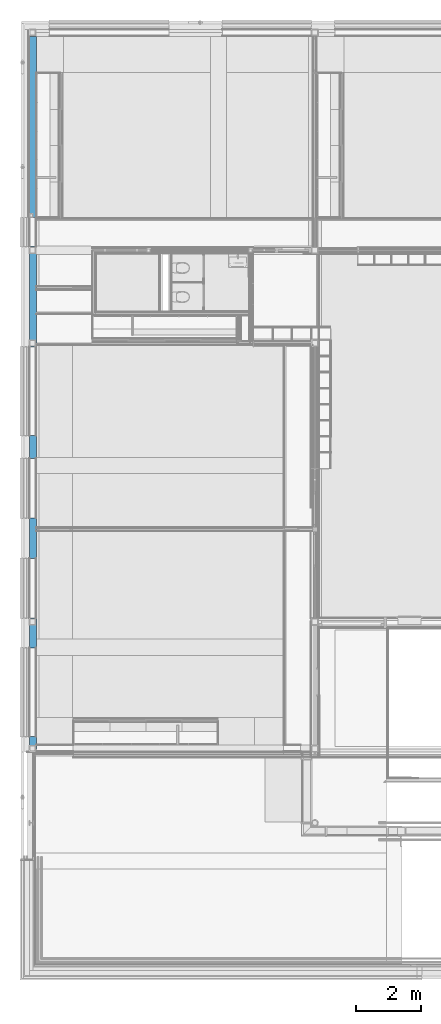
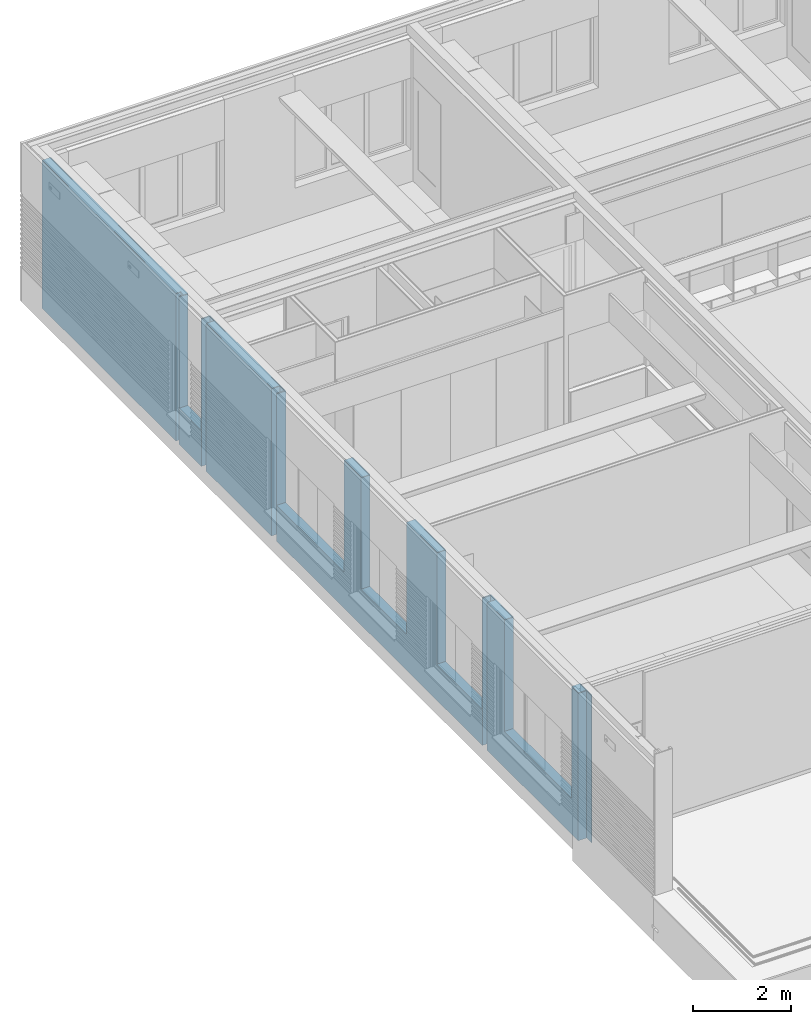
# One storey, part 76 of 137: 1 building element part, 5 openings, 1 element without a shape of its own.
"""IFC2X3 building model written with IfcOpenShell, lengths in millimetres."""

from ifc_helpers import new_model, entity, si_unit, converted_unit, derived_unit, money_unit, direction, frame, origin_with_axes, place, context, subcontext, project, spatial, faceted_brep, material, type_object, element, aggregate, save


model = new_model("IFC2X3")

# Units and contexts
model_context = context("Model", 3, precision=0.01, world=origin_with_axes(), true_north=direction((0.0, 1.0)))
body_context = subcontext(model_context, "Body", "Model", "MODEL_VIEW")
ifc_project = project(units=[si_unit("LENGTHUNIT", "METRE", prefix="MILLI"), si_unit("AREAUNIT", "SQUARE_METRE"), si_unit("VOLUMEUNIT", "CUBIC_METRE"), converted_unit("PLANEANGLEUNIT", "DEGREE", entity("IfcPlaneAngleMeasure", 0.0174532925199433), si_unit("PLANEANGLEUNIT", "RADIAN"), dimensions=[0, 0, 0, 0, 0, 0, 0]), money_unit("EUR"), converted_unit("TIMEUNIT", "Year", entity("IfcTimeMeasure", 31556926.0), si_unit("TIMEUNIT", "SECOND"), dimensions=[0, 0, 1, 0, 0, 0, 0]), si_unit("MASSUNIT", "GRAM", prefix="KILO"), si_unit("THERMODYNAMICTEMPERATUREUNIT", "DEGREE_CELSIUS"), si_unit("LUMINOUSINTENSITYUNIT", "LUMEN"), si_unit("ENERGYUNIT", "JOULE", prefix="MEGA"), derived_unit("THERMALCONDUCTANCEUNIT", [(si_unit("POWERUNIT", "WATT"), 1), (si_unit("LENGTHUNIT", "METRE"), -1), (si_unit("THERMODYNAMICTEMPERATUREUNIT", "KELVIN"), -1)]), derived_unit("SPECIFICHEATCAPACITYUNIT", [(si_unit("ENERGYUNIT", "JOULE"), 1), (si_unit("MASSUNIT", "GRAM", prefix="KILO"), -1), (si_unit("THERMODYNAMICTEMPERATUREUNIT", "KELVIN"), -1)]), derived_unit("MASSDENSITYUNIT", [(si_unit("MASSUNIT", "GRAM", prefix="KILO"), 1), (si_unit("VOLUMEUNIT", "CUBIC_METRE"), -1)])], contexts=[model_context])

# Site, building, storey
site_placement = place(None, origin_with_axes())
site = spatial("IfcSite", under=ifc_project, at=site_placement, Name="Site", CompositionType="ELEMENT")
building_placement = place(site_placement, origin_with_axes())
building = spatial("IfcBuilding", under=site, at=building_placement, Name="Naam gebouw", CompositionType="ELEMENT")
storey_placement = place(building_placement, frame((0.0, 0.0, 3960.0), z_axis=(0.0, 0.0, 1.0), x_axis=(1.0, 0.0, 0.0)))
storey = spatial("IfcBuildingStorey", under=building, at=storey_placement, Name="1e verdieping", CompositionType="ELEMENT", Elevation=3960.0)

# Wall, openings, building element part
wall_type = type_object("IfcWallType", Name="21 Buitenwand spouwmuur 464", PredefinedType="NOTDEFINED")
wall_placement = place(storey_placement, frame((0.0, 6779.999999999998, -100.0000000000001), z_axis=(0.0, 0.0, 1.0), x_axis=(0.0, 1.0, 0.0)))
wall = element("IfcWall", 1, at=wall_placement, inside=storey, type_object=wall_type, Name="21_Wand-x")
opening_1_placement = place(wall_placement, frame((8169.999811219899, 0.0, 899.9999999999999), z_axis=(0.0, 0.0, 1.0), x_axis=(1.0, 0.0, 0.0)))
element("IfcOpeningElement", 2, at=opening_1_placement, cuts=wall, Name="_Merk BD", context=body_context, shape_type="Brep", body=[
    faceted_brep([(925.0000000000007, 0.0, 0.0), (925.0000000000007, 0.0, 1810.0), (925.0000000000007, 0.0, 2810.0), (925.0000000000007, -215.0000000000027, 2810.0), (925.0000000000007, -215.0000000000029, 0.0), (925.0000000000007, 72.00000000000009, 0.0), (925.0000000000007, 72.0000000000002, 1810.0), (-925.0000000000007, 0.0, 1810.0), (-925.0000000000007, 0.0, 2810.0), (-925.0000000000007, -215.0000000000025, 2810.0), (-925.0000000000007, -215.0000000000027, 0.0), (-925.0000000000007, 0.0, 0.0), (-925.0000000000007, 72.00000000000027, 0.0), (-925.0000000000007, 72.00000000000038, 1810.0), (-935.0000000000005, 72.00000000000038, 1810.0), (-935.0000000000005, 72.00000000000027, -44.99999999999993), (935.0000000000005, 72.00000000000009, -44.99999999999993), (935.0000000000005, 72.0000000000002, 1810.0), (935.0000000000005, 251.0000000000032, 1810.0), (-935.0000000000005, 251.0000000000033, 1810.0), (-935.0000000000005, 251.0000000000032, -44.99999999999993), (935.0000000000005, 251.000000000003, -44.99999999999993)], [[[0, 1, 2, 3, 4]], [[1, 0, 5, 6]], [[1, 7, 8, 2]], [[2, 8, 9, 3]], [[9, 10, 4, 3]], [[0, 4, 10, 11, 12, 5]], [[12, 13, 14, 15, 16, 17, 6, 5]], [[7, 1, 6, 13]], [[7, 11, 10, 9, 8]], [[11, 7, 13, 12]], [[13, 6, 17, 18, 19, 14]], [[15, 14, 19, 20]], [[16, 15, 20, 21]], [[17, 16, 21, 18]], [[18, 21, 20, 19]]]),
])
opening_2_placement = place(wall_placement, frame((11179.9998112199, 0.0, 899.9999999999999), z_axis=(0.0, 0.0, 1.0), x_axis=(1.0, 0.0, 0.0)))
element("IfcOpeningElement", 3, at=opening_2_placement, cuts=wall, Name="_Merk BB", context=body_context, shape_type="Brep", body=[
    faceted_brep([(1375.0, 0.0, 0.0), (1375.0, 0.0, 1810.0), (1375.0, 0.0, 2810.0), (1375.0, -215.0000000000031, 2810.0), (1375.0, -215.0000000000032, 0.0), (1375.0, 72.00000000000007, 0.0), (1375.0, 72.00000000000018, 1810.0), (-1375.0, 0.0, 1810.0), (-1375.0, 0.0, 2810.0), (-1375.0, -215.0000000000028, 2810.0), (-1375.0, -215.0000000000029, 0.0), (-1375.0, 0.0, 0.0), (-1375.0, 72.00000000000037, 0.0), (-1375.0, 72.00000000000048, 1810.0), (-1384.999999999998, 72.00000000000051, 1810.0), (-1384.999999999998, 72.0000000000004, -44.99999999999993), (1384.999999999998, 72.00000000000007, -44.99999999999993), (1384.999999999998, 72.00000000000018, 1810.0), (1384.999999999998, 251.000000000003, 1810.0), (-1384.999999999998, 251.0000000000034, 1810.0), (-1384.999999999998, 251.0000000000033, -44.99999999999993), (1384.999999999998, 251.000000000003, -44.99999999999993)], [[[0, 1, 2, 3, 4]], [[1, 0, 5, 6]], [[1, 7, 8, 2]], [[2, 8, 9, 3]], [[9, 10, 4, 3]], [[0, 4, 10, 11, 12, 5]], [[12, 13, 14, 15, 16, 17, 6, 5]], [[7, 1, 6, 13]], [[7, 11, 10, 9, 8]], [[11, 7, 13, 12]], [[13, 6, 17, 18, 19, 14]], [[15, 14, 19, 20]], [[16, 15, 20, 21]], [[17, 16, 21, 18]], [[18, 21, 20, 19]]]),
])
opening_3_placement = place(wall_placement, frame((5070.000110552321, 0.0, 899.9999999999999), z_axis=(0.0, 0.0, 1.0), x_axis=(1.0, 0.0, 0.0)))
element("IfcOpeningElement", 4, at=opening_3_placement, cuts=wall, Name="_Merk BD", context=body_context, shape_type="Brep", body=[
    faceted_brep([(925.0000000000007, 0.0, 0.0), (925.0000000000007, 0.0, 1810.0), (925.0000000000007, 0.0, 2810.0), (925.0000000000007, -215.0000000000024, 2810.0), (925.0000000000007, -215.0000000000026, 0.0), (925.0000000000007, 72.00000000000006, 0.0), (925.0000000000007, 72.00000000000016, 1810.0), (-925.0000000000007, 0.0, 1810.0), (-925.0000000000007, 0.0, 2810.0), (-925.0000000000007, -215.0000000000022, 2810.0), (-925.0000000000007, -215.0000000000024, 0.0), (-925.0000000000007, 0.0, 0.0), (-925.0000000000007, 72.00000000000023, 0.0), (-925.0000000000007, 72.00000000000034, 1810.0), (-935.0000000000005, 72.00000000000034, 1810.0), (-935.0000000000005, 72.00000000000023, -44.99999999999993), (935.0000000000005, 72.00000000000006, -44.99999999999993), (935.0000000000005, 72.00000000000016, 1810.0), (935.0000000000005, 251.0000000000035, 1810.0), (-935.0000000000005, 251.0000000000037, 1810.0), (-935.0000000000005, 251.0000000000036, -44.99999999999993), (935.0000000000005, 251.0000000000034, -44.99999999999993)], [[[0, 1, 2, 3, 4]], [[1, 0, 5, 6]], [[1, 7, 8, 2]], [[2, 8, 9, 3]], [[9, 10, 4, 3]], [[0, 4, 10, 11, 12, 5]], [[12, 13, 14, 15, 16, 17, 6, 5]], [[7, 1, 6, 13]], [[7, 11, 10, 9, 8]], [[11, 7, 13, 12]], [[13, 6, 17, 18, 19, 14]], [[15, 14, 19, 20]], [[16, 15, 20, 21]], [[17, 16, 21, 18]], [[18, 21, 20, 19]]]),
])
opening_4_placement = place(wall_placement, frame((1850.0, 0.0, 899.9999999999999), z_axis=(0.0, 0.0, 1.0), x_axis=(1.0, 0.0, 0.0)))
element("IfcOpeningElement", 5, at=opening_4_placement, cuts=wall, Name="_Merk BB", context=body_context, shape_type="Brep", body=[
    faceted_brep([(1375.0, 0.0, 0.0), (1375.0, 0.0, 1810.0), (1375.0, 0.0, 2810.0), (1375.0, -215.000000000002, 2810.0), (1375.0, -215.0000000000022, 0.0), (1375.0, 71.99999999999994, 0.0), (1375.0, 72.00000000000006, 1810.0), (-1375.0, 0.0, 1810.0), (-1375.0, 0.0, 2810.0), (-1375.0, -215.0000000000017, 2810.0), (-1375.0, -215.0000000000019, 0.0), (-1375.0, 0.0, 0.0), (-1375.0, 72.00000000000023, 0.0), (-1375.0, 72.00000000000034, 1810.0), (-1385.0, 72.00000000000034, 1810.0), (-1385.0, 72.00000000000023, -44.99999999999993), (1385.0, 71.99999999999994, -44.99999999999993), (1385.0, 72.00000000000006, 1810.0), (1385.0, 251.000000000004, 1810.0), (-1385.0, 251.0000000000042, 1810.0), (-1385.0, 251.0000000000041, -44.99999999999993), (1385.0, 251.0000000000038, -44.99999999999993)], [[[0, 1, 2, 3, 4]], [[1, 0, 5, 6]], [[1, 7, 8, 2]], [[2, 8, 9, 3]], [[9, 10, 4, 3]], [[0, 4, 10, 11, 12, 5]], [[12, 13, 14, 15, 16, 17, 6, 5]], [[7, 1, 6, 13]], [[7, 11, 10, 9, 8]], [[11, 7, 13, 12]], [[13, 6, 17, 18, 19, 14]], [[15, 14, 19, 20]], [[16, 15, 20, 21]], [[17, 16, 21, 18]], [[18, 21, 20, 19]]]),
])
opening_5_placement = place(wall_placement, frame((16109.99984707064, 0.0, 899.9999999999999), z_axis=(0.0, 0.0, 1.0), x_axis=(1.0, 0.0, 0.0)))
element("IfcOpeningElement", 6, at=opening_5_placement, cuts=wall, Name="_Merk BF", context=body_context, shape_type="Brep", body=[
    faceted_brep([(449.9999999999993, 0.0, 0.0), (449.9999999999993, 0.0, 1810.0), (449.9999999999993, 0.0, 2810.0), (449.9999999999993, -215.0000000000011, 2810.0), (449.9999999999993, -215.0000000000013, 0.0), (449.9999999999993, 72.0000000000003, 0.0), (449.9999999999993, 72.00000000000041, 1810.0), (-449.9999999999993, 0.0, 1810.0), (-449.9999999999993, 0.0, 2810.0), (-449.9999999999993, -215.0000000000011, 2810.0), (-449.9999999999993, -215.0000000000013, 0.0), (-449.9999999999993, 0.0, 0.0), (-449.9999999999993, 72.00000000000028, 0.0), (-449.9999999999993, 72.0000000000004, 1810.0), (-460.0000000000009, 72.0000000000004, 1810.0), (-460.0000000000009, 72.00000000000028, -44.99999999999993), (460.0000000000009, 72.0000000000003, -44.99999999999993), (460.0000000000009, 72.00000000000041, 1810.0), (460.0000000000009, 251.0000000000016, 1810.0), (-460.0000000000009, 251.0000000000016, 1810.0), (-460.0000000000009, 251.0000000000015, -44.99999999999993), (460.0000000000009, 251.0000000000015, -44.99999999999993)], [[[0, 1, 2, 3, 4]], [[1, 0, 5, 6]], [[1, 7, 8, 2]], [[2, 8, 9, 3]], [[9, 10, 4, 3]], [[0, 4, 10, 11, 12, 5]], [[12, 13, 14, 15, 16, 17, 6, 5]], [[7, 1, 6, 13]], [[7, 11, 10, 9, 8]], [[11, 7, 13, 12]], [[13, 6, 17, 18, 19, 14]], [[15, 14, 19, 20]], [[16, 15, 20, 21]], [[17, 16, 21, 18]], [[18, 21, 20, 19]]]),
])
ifc_material = material(Name="Steen - Kalkzandsteen C")
building_element_part_placement = place(wall_placement, origin_with_axes())
building_element_part = element("IfcBuildingElementPart", 7, at=building_element_part_placement, material=ifc_material, Name="Steen - Kalkzandsteen C", context=body_context, shape_type="Brep", body=[
    faceted_brep([(475.0000000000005, -195.0000004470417, 3695.000001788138), (475.0000000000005, -195.0000004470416, 3699.999999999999), (199.9999999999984, -195.0000004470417, 3699.999999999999), (199.9999999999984, -195.0000004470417, 3695.000001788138), (475.0000000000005, -5.000000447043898, 3699.999999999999), (475.0000000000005, -5.000000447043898, 3695.000001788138), (199.9999999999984, -5.00000044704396, 3699.999999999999), (199.9999999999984, -5.00000044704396, 3695.000001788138)], [[[0, 1, 2, 3]], [[4, 1, 0, 5]], [[1, 4, 6, 2]], [[2, 6, 7, 3]], [[5, 0, 3, 7]], [[4, 5, 7, 6]]]),
    faceted_brep([(3225.0, -5.000000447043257, 3699.999999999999), (3225.0, -195.000000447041, 3699.999999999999), (3930.000110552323, -195.0000004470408, 3699.999999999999), (3930.000110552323, -5.000000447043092, 3699.999999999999), (3225.0, -195.0000004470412, 3695.000001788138), (3225.0, -5.000000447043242, 3695.000001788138), (3930.000110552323, -195.0000004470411, 3695.000001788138), (3930.000110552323, -5.000000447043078, 3695.000001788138)], [[[0, 1, 2, 3]], [[4, 1, 0, 5]], [[1, 4, 6, 2]], [[2, 6, 7, 3]], [[5, 0, 3, 7]], [[4, 5, 7, 6]]]),
    faceted_brep([(9804.999811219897, -195.0000004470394, 3699.999999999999), (9804.999811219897, -5.000000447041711, 3699.999999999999), (9094.9998112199, -5.000000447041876, 3699.999999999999), (9094.9998112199, -195.0000004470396, 3699.999999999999), (9804.999811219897, -5.000000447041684, 3695.000001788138), (9804.999811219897, -195.0000004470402, 3695.000001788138), (9094.9998112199, -5.000000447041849, 3695.000001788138), (9094.9998112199, -195.0000004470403, 3695.000001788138)], [[[0, 1, 2, 3]], [[4, 1, 0, 5]], [[1, 4, 6, 2]], [[2, 6, 7, 3]], [[5, 0, 3, 7]], [[4, 5, 7, 6]]]),
    faceted_brep([(12554.9998112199, -5.00000044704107, 3699.999999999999), (12554.9998112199, -195.0000004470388, 3699.999999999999), (12569.9998112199, -195.0000004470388, 3699.999999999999), (12569.9998112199, -5.000000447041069, 3699.999999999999), (12554.9998112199, -195.0000004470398, 3695.000001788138), (12554.9998112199, -5.000000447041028, 3695.000001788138), (12569.9998112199, -195.0000004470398, 3695.000001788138), (12569.9998112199, -5.000000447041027, 3695.000001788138)], [[[0, 1, 2, 3]], [[4, 1, 0, 5]], [[1, 4, 6, 2]], [[2, 6, 7, 3]], [[5, 0, 3, 7]], [[4, 5, 7, 6]]]),
    faceted_brep([(4145.00011055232, -195.0000004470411, 3695.000001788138), (4145.00011055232, -195.0000004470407, 3699.999999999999), (4130.000110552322, -195.0000004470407, 3699.999999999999), (4130.000110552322, -195.0000004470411, 3695.000001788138), (4145.00011055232, -5.000000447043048, 3699.999999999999), (4145.00011055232, -5.000000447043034, 3695.000001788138), (4130.000110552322, -5.000000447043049, 3699.999999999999), (4130.000110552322, -5.000000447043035, 3695.000001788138)], [[[0, 1, 2, 3]], [[4, 1, 0, 5]], [[1, 4, 6, 2]], [[7, 3, 2, 6]], [[5, 0, 3, 7]], [[4, 5, 7, 6]]]),
    faceted_brep([(5995.000110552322, -5.0000004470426, 3699.999999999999), (5995.000110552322, -195.0000004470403, 3699.999999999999), (7244.999811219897, -195.00000044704, 3699.999999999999), (7244.999811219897, -5.000000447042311, 3699.999999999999), (5995.000110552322, -195.0000004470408, 3695.000001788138), (5995.000110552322, -5.000000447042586, 3695.000001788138), (7244.999811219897, -195.0000004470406, 3695.000001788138), (7244.999811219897, -5.000000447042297, 3695.000001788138)], [[[0, 1, 2, 3]], [[4, 1, 0, 5]], [[1, 4, 6, 2]], [[2, 6, 7, 3]], [[5, 0, 3, 7]], [[4, 5, 7, 6]]]),
    faceted_brep([(15444.99984707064, -195.0000004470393, 3695.000001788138), (15444.99984707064, -195.0000004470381, 3699.999999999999), (12769.9998112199, -195.0000004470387, 3699.999999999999), (12769.9998112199, -195.0000004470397, 3695.000001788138), (15444.99984707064, -5.00000044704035, 3699.999999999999), (15444.99984707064, -5.00000044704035, 3695.000001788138), (12769.9998112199, -5.000000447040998, 3699.999999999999), (12769.9998112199, -5.000000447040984, 3695.000001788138)], [[[0, 1, 2, 3]], [[4, 1, 0, 5]], [[1, 4, 6, 2]], [[3, 2, 6, 7]], [[5, 0, 3, 7]], [[4, 5, 7, 6]]]),
    faceted_brep([(15659.99984707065, -195.0000004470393, 3695.000001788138), (15659.99984707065, -195.000000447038, 3699.999999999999), (15644.99984707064, -195.000000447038, 3699.999999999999), (15644.99984707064, -195.0000004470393, 3695.000001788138), (15659.99984707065, -5.000000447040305, 3699.999999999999), (15659.99984707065, -5.000000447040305, 3695.000001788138), (15644.99984707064, -5.000000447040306, 3699.999999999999), (15644.99984707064, -5.000000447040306, 3695.000001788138)], [[[0, 1, 2, 3]], [[4, 1, 0, 5]], [[1, 4, 6, 2]], [[2, 6, 7, 3]], [[5, 0, 3, 7]], [[4, 5, 7, 6]]]),
    faceted_brep([(16559.99984707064, -5.000000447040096, 3699.999999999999), (16559.99984707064, -195.0000004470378, 3699.999999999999), (22181.0, -195.0000004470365, 3700.0), (22181.0, -5.000000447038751, 3700.0), (16689.99984707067, -5.000000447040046, 3699.999999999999), (16689.99984707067, -120.0000000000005, 3699.999999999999), (16569.99984707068, -120.0000000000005, 3699.999999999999), (16569.99984707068, -5.000000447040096, 3699.999999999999), (16559.99984707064, -195.0000004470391, 3695.000001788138), (16559.99984707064, -5.000000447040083, 3695.000001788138), (22181.0, -195.0000004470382, 3695.000001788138), (22181.0, -5.000000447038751, 3695.000001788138), (16689.99984707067, -5.000000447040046, 3695.000001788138), (16689.99984707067, -120.0000000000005, 3695.000001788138), (16569.99984707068, -120.0000000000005, 3695.000001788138), (16569.99984707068, -5.000000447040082, 3695.000001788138)], [[[0, 1, 2, 3, 4, 5, 6, 7]], [[8, 1, 0, 9]], [[1, 8, 10, 2]], [[11, 3, 2, 10]], [[4, 3, 11, 12]], [[4, 12, 13, 5]], [[5, 13, 14, 6]], [[6, 14, 15, 7]], [[9, 0, 7, 15]], [[8, 9, 15, 14, 13, 12, 11, 10]]]),
    faceted_brep([(3225.0, 0.0, 3685.000001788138), (3225.0, -213.9999999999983, 3685.000001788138), (4145.00011055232, -213.9999999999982, 3685.000001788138), (4145.00011055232, 0.0, 3685.000001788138), (4130.000110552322, 0.0, 3685.000001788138), (4130.000110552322, -199.9999999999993, 3685.000001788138), (3930.000110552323, -199.9999999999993, 3685.000001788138), (3930.000110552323, 0.0, 3685.000001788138), (3225.0, -214.0, 899.9999999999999), (3225.0, 0.0, 899.9999999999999), (475.0000000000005, -214.0000000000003, 899.9999999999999), (475.0000000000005, -213.9999999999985, 3685.000001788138), (-9.281464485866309e-10, -213.9999999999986, 3685.000001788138), (0.0, -214.0000000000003, 0.0), (22181.0, -213.9999999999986, 0.0), (22181.0, -213.9999999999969, 3685.000001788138), (16559.99984707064, -213.9999999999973, 3685.000001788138), (16559.99984707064, -213.999999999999, 899.9999999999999), (15659.99984707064, -213.9999999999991, 899.9999999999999), (15659.99984707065, -213.9999999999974, 3685.000001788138), (12554.9998112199, -213.9999999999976, 3685.000001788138), (12554.9998112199, -213.9999999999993, 899.9999999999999), (9804.999811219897, -213.9999999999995, 899.9999999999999), (9804.999811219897, -213.9999999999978, 3685.000001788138), (9094.9998112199, -213.9999999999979, 3685.000001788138), (9094.9998112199, -213.9999999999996, 899.9999999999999), (7244.999811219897, -213.9999999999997, 899.9999999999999), (7244.999811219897, -213.999999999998, 3685.000001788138), (5995.000110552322, -213.9999999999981, 3685.000001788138), (5995.000110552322, -213.9999999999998, 899.9999999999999), (4145.00011055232, -214.0, 899.9999999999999), (4145.00011055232, 0.0, 899.9999999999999), (5995.000110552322, 0.0, 899.9999999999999), (5995.000110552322, 0.0, 3685.000001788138), (7244.999811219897, 0.0, 3685.000001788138), (7244.999811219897, 0.0, 899.9999999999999), (9094.9998112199, 0.0, 899.9999999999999), (9094.9998112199, 0.0, 3685.000001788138), (9804.999811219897, 0.0, 3685.000001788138), (9804.999811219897, 0.0, 899.9999999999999), (12554.9998112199, 0.0, 899.9999999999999), (12554.9998112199, 0.0, 3685.000001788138), (12569.9998112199, 0.0, 3685.000001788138), (12569.9998112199, 0.0, 0.0), (4130.000110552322, 0.0, 0.0), (4130.000110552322, -199.9999999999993, 0.0), (3930.000110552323, -199.9999999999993, 0.0), (3930.000110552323, 0.0, 0.0), (199.9999999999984, 0.0, 0.0), (199.9999999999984, 0.0, 3685.000001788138), (475.0000000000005, 0.0, 3685.000001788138), (475.0000000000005, 0.0, 899.9999999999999), (199.9999999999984, -199.9999999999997, 3685.000001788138), (0.0, -199.9999999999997, 3685.000001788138), (0.0, -199.9999999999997, 0.0), (199.9999999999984, -199.9999999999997, 0.0), (12569.9998112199, -199.9999999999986, 0.0), (12769.9998112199, -199.9999999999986, 0.0), (12769.9998112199, 0.0, 0.0), (15444.99984707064, 0.0, 0.0), (15444.99984707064, -200.0000000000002, 0.0), (15644.99984707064, -200.0000000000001, 0.0), (15644.99984707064, 0.0, 0.0), (16569.99984707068, 0.0, 0.0), (16569.99984707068, -120.0000000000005, 0.0), (16689.99984707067, -120.0000000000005, 0.0), (16689.99984707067, 0.0, 0.0), (22181.0, 0.0, 0.0), (22181.0, 0.0, 3685.000001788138), (16689.99984707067, 0.0, 3685.000001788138), (16689.99984707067, -120.0000000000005, 3685.000001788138), (16569.99984707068, -120.0000000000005, 3685.000001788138), (16569.99984707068, 0.0, 3685.000001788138), (16559.99984707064, 0.0, 3685.000001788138), (16559.99984707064, 0.0, 899.9999999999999), (15659.99984707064, 0.0, 899.9999999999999), (15659.99984707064, 0.0, 3685.000001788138), (15644.99984707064, 0.0, 3685.000001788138), (15644.99984707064, -200.0000000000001, 3685.000001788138), (15444.99984707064, -200.0000000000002, 3685.000001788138), (15444.99984707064, 0.0, 3685.000001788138), (12769.9998112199, 0.0, 3685.000001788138), (12769.9998112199, -199.9999999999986, 3685.000001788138), (12569.9998112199, -199.9999999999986, 3685.000001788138)], [[[0, 1, 2, 3, 4, 5, 6, 7]], [[8, 1, 0, 9]], [[10, 11, 12, 13, 14, 15, 16, 17, 18, 19, 20, 21, 22, 23, 24, 25, 26, 27, 28, 29, 30, 2, 1, 8]], [[2, 30, 31, 3]], [[4, 3, 31, 32, 33, 34, 35, 36, 37, 38, 39, 40, 41, 42, 43, 44]], [[4, 44, 45, 5]], [[5, 45, 46, 6]], [[6, 46, 47, 7]], [[9, 0, 7, 47, 48, 49, 50, 51]], [[10, 8, 9, 51]], [[50, 11, 10, 51]], [[11, 50, 49, 52, 53, 12]], [[54, 13, 12, 53]], [[14, 13, 54, 55, 48, 47, 46, 45, 44, 43, 56, 57, 58, 59, 60, 61, 62, 63, 64, 65, 66, 67]], [[68, 15, 14, 67]], [[69, 70, 71, 72, 73, 16, 15, 68]], [[17, 16, 73, 74]], [[18, 17, 74, 75]], [[76, 19, 18, 75]], [[76, 77, 78, 79, 80, 81, 82, 83, 42, 41, 20, 19]], [[40, 21, 20, 41]], [[39, 22, 21, 40]], [[39, 38, 23, 22]], [[23, 38, 37, 24]], [[37, 36, 25, 24]], [[36, 35, 26, 25]], [[26, 35, 34, 27]], [[28, 27, 34, 33]], [[28, 33, 32, 29]], [[29, 32, 31, 30]], [[83, 56, 43, 42]], [[49, 48, 55, 52]], [[52, 55, 54, 53]], [[82, 57, 56, 83]], [[81, 58, 57, 82]], [[59, 58, 81, 80]], [[79, 60, 59, 80]], [[78, 61, 60, 79]], [[77, 62, 61, 78]], [[62, 77, 76, 75, 74, 73, 72, 63]], [[71, 64, 63, 72]], [[70, 65, 64, 71]], [[69, 66, 65, 70]], [[69, 68, 67, 66]]]),
    faceted_brep([(7244.999811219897, -213.999999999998, 3700.0), (7244.999811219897, -201.0000004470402, 3700.0), (5995.000110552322, -201.0000004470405, 3700.0), (5995.000110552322, -213.9999999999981, 3700.0), (7244.999811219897, -201.0000004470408, 3695.000001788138), (7244.999811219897, -213.999999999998, 3695.000001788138), (5995.000110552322, -201.000000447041, 3695.000001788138), (5995.000110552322, -213.9999999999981, 3695.000001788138)], [[[0, 1, 2, 3]], [[4, 1, 0, 5]], [[1, 4, 6, 2]], [[2, 6, 7, 3]], [[5, 0, 3, 7]], [[4, 5, 7, 6]]]),
    faceted_brep([(9094.9998112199, -201.0000004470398, 3700.0), (9094.9998112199, -213.9999999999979, 3700.0), (9804.999811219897, -213.9999999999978, 3700.0), (9804.999811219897, -201.0000004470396, 3700.0), (9094.9998112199, -213.9999999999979, 3695.000001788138), (9094.9998112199, -201.0000004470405, 3695.000001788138), (9804.999811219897, -213.9999999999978, 3695.000001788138), (9804.999811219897, -201.0000004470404, 3695.000001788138)], [[[0, 1, 2, 3]], [[4, 1, 0, 5]], [[1, 4, 6, 2]], [[2, 6, 7, 3]], [[5, 0, 3, 7]], [[4, 5, 7, 6]]]),
    faceted_brep([(15659.99984707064, -213.9999999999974, 3700.0), (15659.99984707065, -201.0000004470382, 3700.0), (12554.9998112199, -201.000000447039, 3700.0), (12554.9998112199, -213.9999999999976, 3700.0), (15659.99984707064, -201.0000004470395, 3695.000001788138), (15659.99984707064, -213.9999999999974, 3695.000001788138), (12554.9998112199, -201.00000044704, 3695.000001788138), (12554.9998112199, -213.9999999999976, 3695.000001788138)], [[[0, 1, 2, 3]], [[4, 1, 0, 5]], [[1, 4, 6, 2]], [[2, 6, 7, 3]], [[5, 0, 3, 7]], [[4, 5, 7, 6]]]),
    faceted_brep([(16559.99984707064, -201.000000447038, 3700.0), (16559.99984707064, -213.9999999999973, 3700.0), (22181.0, -213.9999999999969, 3700.0), (22181.0, -201.0000004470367, 3700.0), (16559.99984707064, -213.9999999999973, 3695.000001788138), (16559.99984707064, -201.0000004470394, 3695.000001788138), (22181.0, -213.9999999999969, 3695.000001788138), (22181.0, -201.0000004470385, 3695.000001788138)], [[[0, 1, 2, 3]], [[4, 1, 0, 5]], [[1, 4, 6, 2]], [[3, 2, 6, 7]], [[5, 0, 3, 7]], [[4, 5, 7, 6]]]),
    faceted_brep([(475.0000000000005, -213.9999999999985, 3695.000001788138), (475.0000000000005, -213.9999999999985, 3700.0), (0.0, -213.9999999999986, 3700.0), (-9.281464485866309e-10, -213.9999999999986, 3695.000001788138), (475.0000000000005, -201.0000004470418, 3699.999999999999), (475.0000000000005, -201.0000004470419, 3695.000001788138), (-9.192646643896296e-10, -201.0000004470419, 3699.999999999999), (-9.281464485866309e-10, -201.0000004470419, 3695.000001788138)], [[[0, 1, 2, 3]], [[4, 1, 0, 5]], [[1, 4, 6, 2]], [[3, 2, 6, 7]], [[5, 0, 3, 7]], [[4, 5, 7, 6]]]),
    faceted_brep([(3225.0, -201.0000004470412, 3699.999999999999), (3225.0, -213.9999999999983, 3700.0), (4145.00011055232, -213.9999999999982, 3700.0), (4145.00011055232, -201.000000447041, 3699.999999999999), (3225.0, -213.9999999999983, 3695.000001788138), (3225.0, -201.0000004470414, 3695.000001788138), (4145.00011055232, -213.9999999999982, 3695.000001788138), (4145.00011055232, -201.0000004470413, 3695.000001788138)], [[[0, 1, 2, 3]], [[4, 1, 0, 5]], [[1, 4, 6, 2]], [[2, 6, 7, 3]], [[5, 0, 3, 7]], [[4, 5, 7, 6]]]),
])
aggregate(wall, [building_element_part])

save(model, "model.ifc")
